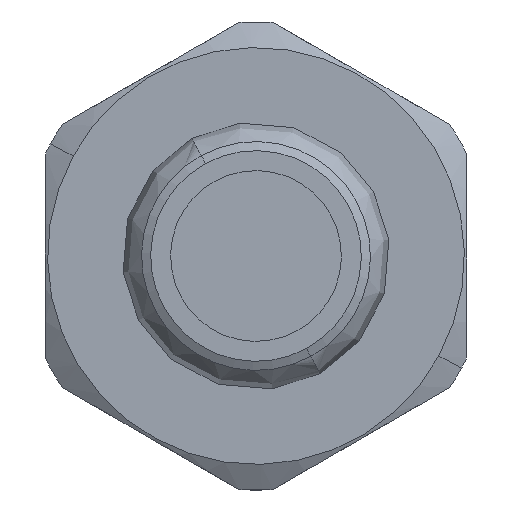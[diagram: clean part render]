
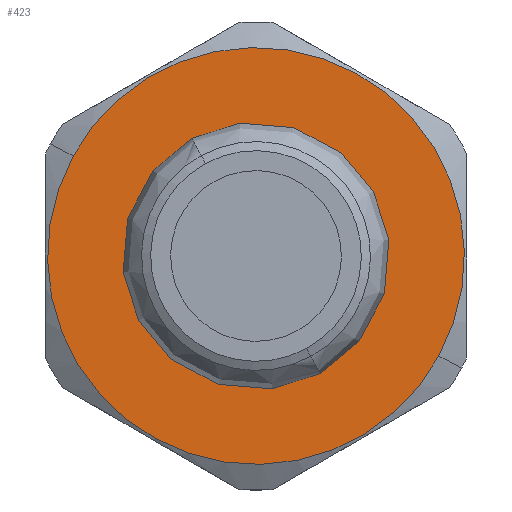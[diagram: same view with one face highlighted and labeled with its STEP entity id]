
A CAD part, left-side view. The second image highlights one B-rep face of the part: STEP entity #423.
In plain terms, the highlighted free-form (B-spline) face has degree [1, 1] with [2, 2] control points.
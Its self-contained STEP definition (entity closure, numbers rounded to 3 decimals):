
#423=ADVANCED_FACE('',(#1178,#1179),#1180,.F.);
#647=VERTEX_POINT('',#1453);
#651=VERTEX_POINT('',#1457);
#655=EDGE_CURVE('',#651,#647,#1461,.T.);
#657=EDGE_CURVE('',#647,#651,#1463,.T.);
#659=VERTEX_POINT('',#1465);
#661=VERTEX_POINT('',#1467);
#663=EDGE_CURVE('',#659,#661,#1469,.T.);
#665=EDGE_CURVE('',#661,#659,#1471,.T.);
#1178=FACE_OUTER_BOUND('',#2308,.T.);
#1179=FACE_BOUND('',#2309,.T.);
#1180=B_SPLINE_SURFACE_WITH_KNOTS('',1,1,((#2310,#2311),(#2312,#2313)),.UNSPECIFIED.,.F.,.F.,.F.,(2,2),(2,2),(0.138,0.862),(0.138,0.862),.UNSPECIFIED.);
#1453=CARTESIAN_POINT('',(0.,5.525,-10.114));
#1457=CARTESIAN_POINT('',(0.,-5.525,10.114));
#1461=CIRCLE('',#3166,11.525);
#1463=CIRCLE('',#3169,11.525);
#1465=CARTESIAN_POINT('',(0.,16.06,8.773));
#1467=CARTESIAN_POINT('',(0.,-16.06,-8.773));
#1469=CIRCLE('',#3176,18.3);
#1471=CIRCLE('',#3179,18.3);
#2308=EDGE_LOOP('',(#4188,#4189));
#2309=EDGE_LOOP('',(#4190,#4191));
#2310=CARTESIAN_POINT('',(0.,-18.352,-18.352));
#2311=CARTESIAN_POINT('',(0.,-18.352,18.352));
#2312=CARTESIAN_POINT('',(0.,18.352,-18.352));
#2313=CARTESIAN_POINT('',(0.,18.352,18.352));
#3166=AXIS2_PLACEMENT_3D('',#4587,#4588,#4589);
#3169=AXIS2_PLACEMENT_3D('',#4590,#4591,#4592);
#3176=AXIS2_PLACEMENT_3D('',#4593,#4594,#4595);
#3179=AXIS2_PLACEMENT_3D('',#4596,#4597,#4598);
#4188=ORIENTED_EDGE('',*,*,#663,.F.);
#4189=ORIENTED_EDGE('',*,*,#665,.F.);
#4190=ORIENTED_EDGE('',*,*,#655,.F.);
#4191=ORIENTED_EDGE('',*,*,#657,.F.);
#4587=CARTESIAN_POINT('',(0.,0.,0.));
#4588=DIRECTION('',(-1.0,0.,0.));
#4589=DIRECTION('',(0.,-0.479,0.878));
#4590=CARTESIAN_POINT('',(0.,0.,0.));
#4591=DIRECTION('',(-1.0,0.,0.));
#4592=DIRECTION('',(0.,0.479,-0.878));
#4593=CARTESIAN_POINT('',(0.,0.,0.));
#4594=DIRECTION('',(1.0,0.,0.));
#4595=DIRECTION('',(0.,0.878,0.479));
#4596=CARTESIAN_POINT('',(0.,0.,0.));
#4597=DIRECTION('',(1.0,0.,0.));
#4598=DIRECTION('',(0.,-0.878,-0.479));
